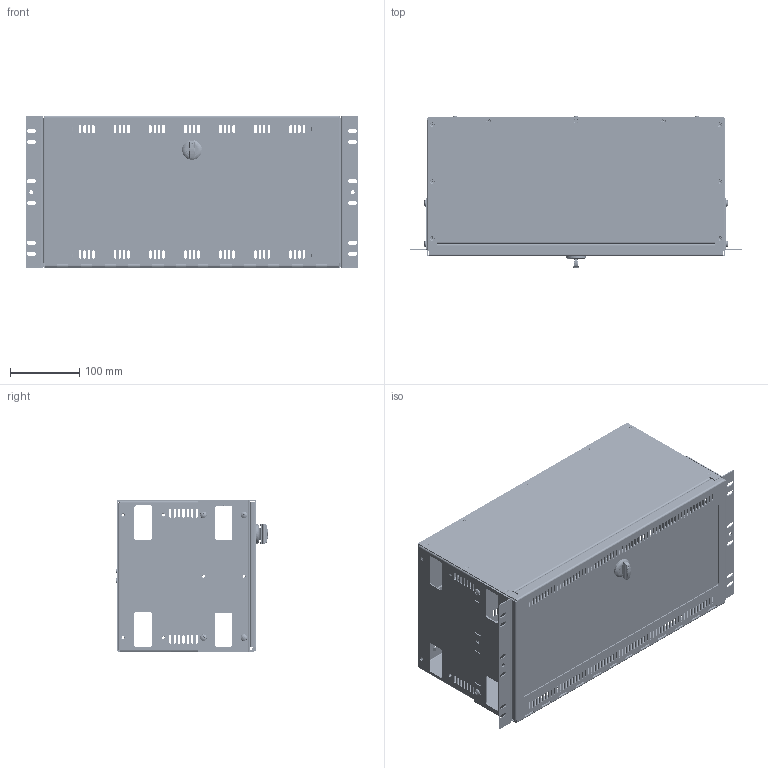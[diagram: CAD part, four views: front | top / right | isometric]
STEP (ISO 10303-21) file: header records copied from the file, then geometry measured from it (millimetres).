
FILE_DESCRIPTION(/* description */ ('STEP AP242','CAx-IF Rec.Pracs.---Representation and Presentation of Product Manufacturing Information (PMI)---4.0---2014-10-13','CAx-IF Rec.Pracs.---3D Tessellated Geometry---0.4---2014-09-14','2;1'),/* implementation_level */ '2;1');
FILE_NAME(/* name */ '61c363b09a70d522cd2fea7b',/* time_stamp */ '2021-12-22T17:43:17+00:00',/* author */ (''),/* organization */ (''),/* preprocessor_version */ 'ST-DEVELOPER v18.101',/* originating_system */ ' ',/* authorisation */ ' ');
FILE_SCHEMA (('AP242_MANAGED_MODEL_BASED_3D_ENGINEERING_MIM_LF { 1 0 10303 442 1 1 4 }'));
Products named in the file (39): CD-409 - DRH-N-1 - 19in Rack Ears; 91249A258_Black-Oxide 18-8 Stainless Steel Pan Head Phillips Screws; Part 1; DRH-N-1 <1>; SierraPacific-41-05BK; 96640A334_BLACK-OXIDE 18-8 STAINLESS STEEL PHILLIPS FLAT HEAD SCREWS; P-072 - DIN Rail Housing Top Cover <1>; 93580A115_Press-Fit Studs; H-107B - DIN Rail Housing Door <1>; 93580A016_Press-Fit Studs; 94909A007; H-108 - DIN Rail Housing Chassis <1>; 96439A120; 96439A520; 97526A211_Domed Head Blind Rivets; 8961K45; Part 12; Part 3; Part 4; Part 6; Part 5; Part 10; Part 7; Part 9; Part 2; Part 11; Part 8
Assembly tree (98 placements, depth 4):
  CD-409 - DRH-N-1 - 19in Rack Ears
    91249A258_Black-Oxide 18-8 Stainless Steel Pan Head Phillips Screws  x8
    Part 1  x2
    DRH-N-1 <1>
      Part 1
      SierraPacific-41-05BK
      96640A334_BLACK-OXIDE 18-8 STAINLESS STEEL PHILLIPS FLAT HEAD SCREWS  x9
      SierraPacific-41-05BK
      SierraPacific-41-05BK
      SierraPacific-41-05BK
      SierraPacific-41-05BK
      P-072 - DIN Rail Housing Top Cover <1>
        93580A115_Press-Fit Studs  x2
        Part 1
      SierraPacific-41-05BK
      SierraPacific-41-05BK
      SierraPacific-41-05BK
      H-107B - DIN Rail Housing Door <1>
        93580A016_Press-Fit Studs  x7
        94909A007  x7
        Part 1
        Part 1
      H-108 - DIN Rail Housing Chassis <1>
        96439A120  x8
        96439A520  x20
        97526A211_Domed Head Blind Rivets  x6
        8961K45
        Part 12
        Part 3
        Part 4
        Part 1
        Part 6
        Part 5
        Part 10
        Part 7
        Part 9
        Part 2
        Part 11
        Part 8
Bounding box: 481.08 x 219.98 x 220.47 mm (x, y, z)
Volume: 894634.8 mm3; surface area: 1072887.1 mm2
Topology: 95 solids, 95 shells, 8817 faces, 27167 edges, 18632 vertices
Faces by surface type: plane 5426, cylinder 2490, cone 533, bspline 236, torus 75, sphere 57
Full cylindrical faces by diameter (mm): 1.6 x6, 2.819 x2, 2.845 x72, 2.91 x7, 3.048 x1, 3.175 x6, 3.251 x9, 3.264 x6, 3.48 x7, 3.505 x56, 3.81 x7, 4.216 x9, 5.105 x1, 5.842 x10, 6.35 x41, 6.858 x1, 8.636 x20, 9.474 x8, 10.008 x1, 10.312 x1, 10.414 x1, 14.376 x2, 15.113 x1, 16.84 x3, 17.145 x1, 19.05 x1, 20.498 x1, 22.098 x1, 28.067 x1, 28.575 x1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
Entity records: 113283 total; most frequent: CARTESIAN_POINT 31031, ORIENTED_EDGE 17260, DIRECTION 16310, EDGE_CURVE 8630, VERTEX_POINT 5791, AXIS2_PLACEMENT_3D 5591, LINE 5128, VECTOR 5128
